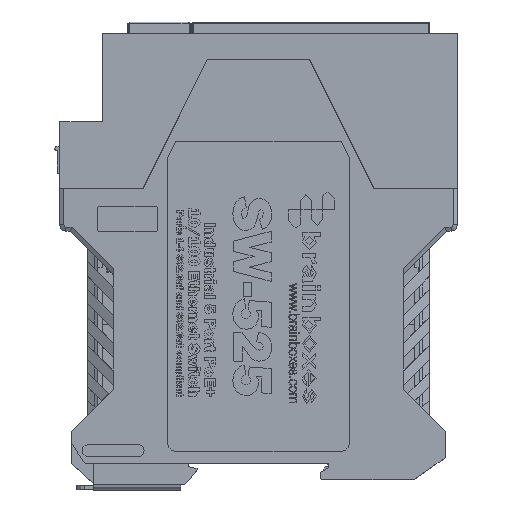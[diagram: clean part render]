
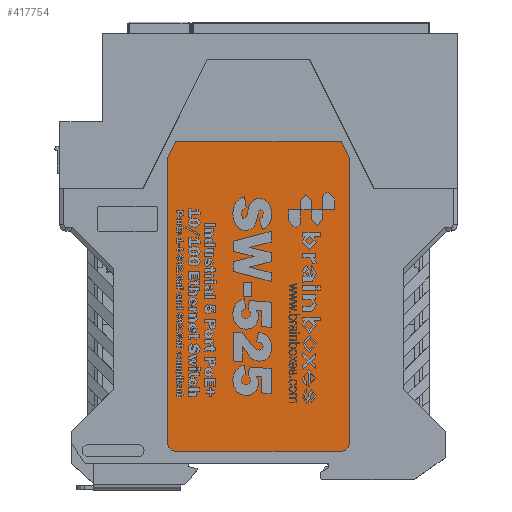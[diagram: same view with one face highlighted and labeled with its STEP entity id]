
A CAD part, top view. The second image highlights one B-rep face of the part: STEP entity #417754.
In plain terms, the highlighted planar face has unit normal (0, 0, 1).
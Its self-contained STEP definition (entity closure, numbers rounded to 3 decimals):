
#417642 = VERTEX_POINT('',#417643);
#417643 = CARTESIAN_POINT('',(18.85,-50.,18.4));
#417651 = VERTEX_POINT('',#417652);
#417652 = CARTESIAN_POINT('',(18.85,21.3,18.4));
#417658 = EDGE_CURVE('',#417642,#417651,#417659,.T.);
#417659 = LINE('',#417660,#417661);
#417660 = CARTESIAN_POINT('',(18.85,-63.,18.4));
#417661 = VECTOR('',#417662,1.);
#417662 = DIRECTION('',(0.,1.,0.));
#417673 = VERTEX_POINT('',#417674);
#417674 = CARTESIAN_POINT('',(-24.45,-52.,18.4));
#417682 = VERTEX_POINT('',#417683);
#417683 = CARTESIAN_POINT('',(16.85,-52.,18.4));
#417689 = EDGE_CURVE('',#417682,#417673,#417690,.T.);
#417690 = LINE('',#417691,#417692);
#417691 = CARTESIAN_POINT('',(-3.8,-52.,18.4));
#417692 = VECTOR('',#417693,1.);
#417693 = DIRECTION('',(-1.,0.,0.));
#417704 = VERTEX_POINT('',#417705);
#417705 = CARTESIAN_POINT('',(16.85,25.3,18.4));
#417713 = VERTEX_POINT('',#417714);
#417714 = CARTESIAN_POINT('',(-24.45,25.3,18.4));
#417720 = EDGE_CURVE('',#417704,#417713,#417721,.T.);
#417721 = LINE('',#417722,#417723);
#417722 = CARTESIAN_POINT('',(-3.8,25.3,18.4));
#417723 = VECTOR('',#417724,1.);
#417724 = DIRECTION('',(-1.,0.,0.));
#417737 = VERTEX_POINT('',#417738);
#417738 = CARTESIAN_POINT('',(-26.45,21.3,18.4));
#417744 = EDGE_CURVE('',#417713,#417737,#417745,.T.);
#417745 = LINE('',#417746,#417747);
#417746 = CARTESIAN_POINT('',(-55.64,-37.08,18.4));
#417747 = VECTOR('',#417748,1.);
#417748 = DIRECTION('',(-0.447,-0.894,0.));
#417754 = ADVANCED_FACE('',(#417755),#417789,.T.);
#417755 = FACE_BOUND('',#417756,.T.);
#417756 = EDGE_LOOP('',(#417757,#417758,#417766,#417773,#417774,#417781,
    #417782,#417788));
#417757 = ORIENTED_EDGE('',*,*,#417744,.T.);
#417758 = ORIENTED_EDGE('',*,*,#417759,.T.);
#417759 = EDGE_CURVE('',#417737,#417760,#417762,.T.);
#417760 = VERTEX_POINT('',#417761);
#417761 = CARTESIAN_POINT('',(-26.45,-50.,18.4));
#417762 = LINE('',#417763,#417764);
#417763 = CARTESIAN_POINT('',(-26.45,-63.,18.4));
#417764 = VECTOR('',#417765,1.);
#417765 = DIRECTION('',(0.,-1.,0.));
#417766 = ORIENTED_EDGE('',*,*,#417767,.T.);
#417767 = EDGE_CURVE('',#417760,#417673,#417768,.T.);
#417768 = CIRCLE('',#417769,2.);
#417769 = AXIS2_PLACEMENT_3D('',#417770,#417771,#417772);
#417770 = CARTESIAN_POINT('',(-24.45,-50.,18.4));
#417771 = DIRECTION('',(0.,0.,1.));
#417772 = DIRECTION('',(1.,0.,0.));
#417773 = ORIENTED_EDGE('',*,*,#417689,.F.);
#417774 = ORIENTED_EDGE('',*,*,#417775,.T.);
#417775 = EDGE_CURVE('',#417682,#417642,#417776,.T.);
#417776 = CIRCLE('',#417777,2.);
#417777 = AXIS2_PLACEMENT_3D('',#417778,#417779,#417780);
#417778 = CARTESIAN_POINT('',(16.85,-50.,18.4));
#417779 = DIRECTION('',(0.,0.,1.));
#417780 = DIRECTION('',(1.,0.,0.));
#417781 = ORIENTED_EDGE('',*,*,#417658,.T.);
#417782 = ORIENTED_EDGE('',*,*,#417783,.T.);
#417783 = EDGE_CURVE('',#417651,#417704,#417784,.T.);
#417784 = LINE('',#417785,#417786);
#417785 = CARTESIAN_POINT('',(48.04,-37.08,18.4));
#417786 = VECTOR('',#417787,1.);
#417787 = DIRECTION('',(-0.447,0.894,0.));
#417788 = ORIENTED_EDGE('',*,*,#417720,.T.);
#417789 = PLANE('',#417790);
#417790 = AXIS2_PLACEMENT_3D('',#417791,#417792,#417793);
#417791 = CARTESIAN_POINT('',(2.665,20.955,18.4));
#417792 = DIRECTION('',(0.,0.,1.));
#417793 = DIRECTION('',(1.,0.,0.));
